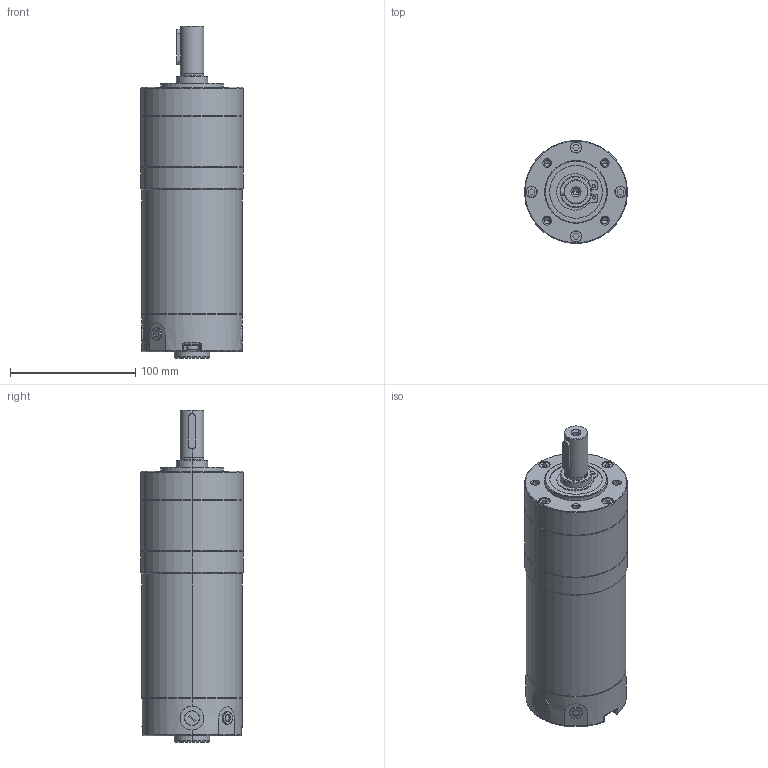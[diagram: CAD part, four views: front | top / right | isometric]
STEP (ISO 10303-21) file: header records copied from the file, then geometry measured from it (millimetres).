
FILE_DESCRIPTION (( 'STEP AP203' ), '1' );
FILE_NAME ('82ZPN衄芃珨撰熬厒.STEP', '2021-07-17T08:20:26', ( '' ), ( '' ), 'SwSTEP 2.0', 'SolidWorks 2021', '' );
FILE_SCHEMA (( 'CONFIG_CONTROL_DESIGN' ));
Length unit declared in the file: millimetre
Products named in the file (1): 82ZPN衄芃珨撰熬厒
Bounding box: 82 x 82 x 264.7 mm (x, y, z)
Volume: 1098891.6 mm3; surface area: 71978.5 mm2
Topology: 1 solids, 1 shells, 306 faces, 707 edges, 431 vertices
Faces by surface type: plane 126, cylinder 106, cone 48, torus 18, sphere 4, bspline 4
Entity records: 9125 total; most frequent: CARTESIAN_POINT 2075, DIRECTION 1526, ORIENTED_EDGE 1378, EDGE_CURVE 689, AXIS2_PLACEMENT_3D 570, VERTEX_POINT 427, LINE 386, VECTOR 386
